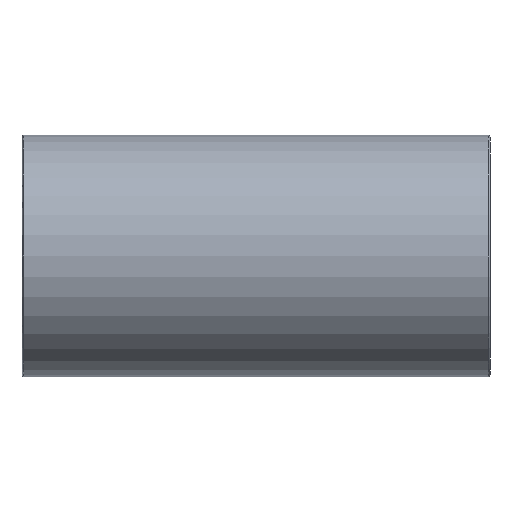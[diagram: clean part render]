
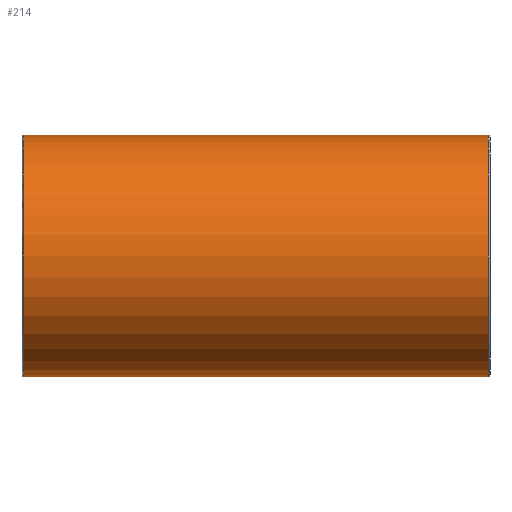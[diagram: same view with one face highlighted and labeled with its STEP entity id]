
A CAD part, front view. The second image highlights one B-rep face of the part: STEP entity #214.
In plain terms, the highlighted cylindrical face has radius 30.5 mm (diameter 61 mm), a full revolution.
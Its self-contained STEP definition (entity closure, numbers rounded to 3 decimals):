
#27=B_SPLINE_CURVE_WITH_KNOTS('',3,(#355,#356,#357,#358,#359,#360,#361,
#362,#363,#364,#365,#366,#367,#368,#369,#370,#371,#372,#373,#374,#375,#376,
#377,#378,#379,#380,#381,#382,#383,#384,#385,#386,#387,#388,#389,#390,#391,
#392,#393,#394,#395,#396,#397,#398,#399,#400,#401,#402,#403,#404,#405,#406,
#407,#408,#409,#410,#411,#412,#413,#414,#415,#416,#417,#418,#419,#420),
 .UNSPECIFIED.,.T.,.F.,(4,2,2,2,2,2,2,2,2,2,2,2,2,2,2,2,2,2,2,2,2,2,2,2,
2,2,2,2,2,2,2,2,4),(0.,0.517,1.034,1.551,
2.069,2.567,3.065,3.564,4.062,
4.56,5.059,5.557,6.055,6.572,
7.089,7.607,8.124,8.641,9.158,
9.675,10.192,10.691,11.189,11.687,
12.186,12.684,13.182,13.681,14.179,
14.696,15.213,15.73,16.248),
 .UNSPECIFIED.);
#29=FACE_BOUND('',#70,.T.);
#30=FACE_BOUND('',#71,.T.);
#50=FACE_OUTER_BOUND('',#69,.T.);
#69=EDGE_LOOP('',(#167));
#70=EDGE_LOOP('',(#168));
#71=EDGE_LOOP('',(#169));
#109=CIRCLE('',#236,30.5);
#110=CIRCLE('',#237,30.5);
#127=VERTEX_POINT('',#350);
#128=VERTEX_POINT('',#352);
#129=VERTEX_POINT('',#354);
#147=EDGE_CURVE('',#127,#127,#109,.T.);
#148=EDGE_CURVE('',#128,#128,#110,.T.);
#149=EDGE_CURVE('',#129,#129,#27,.T.);
#167=ORIENTED_EDGE('',*,*,#147,.F.);
#168=ORIENTED_EDGE('',*,*,#148,.F.);
#169=ORIENTED_EDGE('',*,*,#149,.F.);
#207=CYLINDRICAL_SURFACE('',#235,30.5);
#214=ADVANCED_FACE('',(#50,#29,#30),#207,.T.);
#235=AXIS2_PLACEMENT_3D('',#349,#274,#275);
#236=AXIS2_PLACEMENT_3D('',#351,#276,#277);
#237=AXIS2_PLACEMENT_3D('',#353,#278,#279);
#274=DIRECTION('center_axis',(1.,0.,0.));
#275=DIRECTION('ref_axis',(0.,1.,0.));
#276=DIRECTION('center_axis',(-1.,0.,0.));
#277=DIRECTION('ref_axis',(0.,-1.,0.));
#278=DIRECTION('center_axis',(1.,0.,0.));
#279=DIRECTION('ref_axis',(0.,-1.,0.));
#349=CARTESIAN_POINT('Origin',(0.,0.,
0.));
#350=CARTESIAN_POINT('',(-58.5,30.5,0.));
#351=CARTESIAN_POINT('Origin',(-58.5,0.,0.));
#352=CARTESIAN_POINT('',(58.5,30.5,0.));
#353=CARTESIAN_POINT('Origin',(58.5,0.,0.));
#354=CARTESIAN_POINT('',(0.,17.471,25.));
#355=CARTESIAN_POINT('Ctrl Pts',(0.,17.471,
25.));
#356=CARTESIAN_POINT('Ctrl Pts',(1.724,17.471,25.));
#357=CARTESIAN_POINT('Ctrl Pts',(3.422,17.734,24.821));
#358=CARTESIAN_POINT('Ctrl Pts',(6.703,18.647,24.143));
#359=CARTESIAN_POINT('Ctrl Pts',(8.287,19.292,23.643));
#360=CARTESIAN_POINT('Ctrl Pts',(11.296,20.763,22.362));
#361=CARTESIAN_POINT('Ctrl Pts',(12.723,21.588,21.58));
#362=CARTESIAN_POINT('Ctrl Pts',(15.369,23.247,19.782));
#363=CARTESIAN_POINT('Ctrl Pts',(16.589,24.08,18.767));
#364=CARTESIAN_POINT('Ctrl Pts',(18.727,25.601,16.628));
#365=CARTESIAN_POINT('Ctrl Pts',(19.733,26.349,15.433));
#366=CARTESIAN_POINT('Ctrl Pts',(21.538,27.727,12.793));
#367=CARTESIAN_POINT('Ctrl Pts',(22.338,28.356,11.348));
#368=CARTESIAN_POINT('Ctrl Pts',(23.646,29.397,8.286));
#369=CARTESIAN_POINT('Ctrl Pts',(24.154,29.81,6.665));
#370=CARTESIAN_POINT('Ctrl Pts',(24.832,30.362,3.352));
#371=CARTESIAN_POINT('Ctrl Pts',(25.,30.5,1.661));
#372=CARTESIAN_POINT('Ctrl Pts',(25.,30.5,-1.661));
#373=CARTESIAN_POINT('Ctrl Pts',(24.832,30.362,-3.352));
#374=CARTESIAN_POINT('Ctrl Pts',(24.154,29.81,-6.665));
#375=CARTESIAN_POINT('Ctrl Pts',(23.646,29.397,-8.286));
#376=CARTESIAN_POINT('Ctrl Pts',(22.338,28.356,-11.348));
#377=CARTESIAN_POINT('Ctrl Pts',(21.538,27.727,-12.793));
#378=CARTESIAN_POINT('Ctrl Pts',(19.733,26.349,-15.433));
#379=CARTESIAN_POINT('Ctrl Pts',(18.727,25.601,-16.628));
#380=CARTESIAN_POINT('Ctrl Pts',(16.589,24.08,-18.767));
#381=CARTESIAN_POINT('Ctrl Pts',(15.369,23.247,-19.782));
#382=CARTESIAN_POINT('Ctrl Pts',(12.723,21.588,-21.58));
#383=CARTESIAN_POINT('Ctrl Pts',(11.296,20.763,-22.362));
#384=CARTESIAN_POINT('Ctrl Pts',(8.287,19.292,-23.643));
#385=CARTESIAN_POINT('Ctrl Pts',(6.703,18.647,-24.143));
#386=CARTESIAN_POINT('Ctrl Pts',(3.422,17.734,-24.821));
#387=CARTESIAN_POINT('Ctrl Pts',(1.724,17.471,-25.));
#388=CARTESIAN_POINT('Ctrl Pts',(-1.724,17.471,-25.));
#389=CARTESIAN_POINT('Ctrl Pts',(-3.422,17.734,-24.821));
#390=CARTESIAN_POINT('Ctrl Pts',(-6.703,18.647,-24.143));
#391=CARTESIAN_POINT('Ctrl Pts',(-8.287,19.292,-23.643));
#392=CARTESIAN_POINT('Ctrl Pts',(-11.296,20.763,-22.362));
#393=CARTESIAN_POINT('Ctrl Pts',(-12.723,21.588,-21.58));
#394=CARTESIAN_POINT('Ctrl Pts',(-15.369,23.247,-19.782));
#395=CARTESIAN_POINT('Ctrl Pts',(-16.589,24.08,-18.767));
#396=CARTESIAN_POINT('Ctrl Pts',(-18.727,25.601,-16.628));
#397=CARTESIAN_POINT('Ctrl Pts',(-19.733,26.349,-15.433));
#398=CARTESIAN_POINT('Ctrl Pts',(-21.538,27.727,-12.793));
#399=CARTESIAN_POINT('Ctrl Pts',(-22.338,28.356,-11.348));
#400=CARTESIAN_POINT('Ctrl Pts',(-23.646,29.397,-8.286));
#401=CARTESIAN_POINT('Ctrl Pts',(-24.154,29.81,-6.665));
#402=CARTESIAN_POINT('Ctrl Pts',(-24.832,30.362,-3.352));
#403=CARTESIAN_POINT('Ctrl Pts',(-25.,30.5,-1.661));
#404=CARTESIAN_POINT('Ctrl Pts',(-25.,30.5,1.661));
#405=CARTESIAN_POINT('Ctrl Pts',(-24.832,30.362,3.352));
#406=CARTESIAN_POINT('Ctrl Pts',(-24.154,29.81,6.665));
#407=CARTESIAN_POINT('Ctrl Pts',(-23.646,29.397,8.286));
#408=CARTESIAN_POINT('Ctrl Pts',(-22.338,28.356,11.348));
#409=CARTESIAN_POINT('Ctrl Pts',(-21.538,27.727,12.793));
#410=CARTESIAN_POINT('Ctrl Pts',(-19.733,26.349,15.433));
#411=CARTESIAN_POINT('Ctrl Pts',(-18.727,25.601,16.628));
#412=CARTESIAN_POINT('Ctrl Pts',(-16.589,24.08,18.767));
#413=CARTESIAN_POINT('Ctrl Pts',(-15.369,23.247,19.782));
#414=CARTESIAN_POINT('Ctrl Pts',(-12.723,21.588,21.58));
#415=CARTESIAN_POINT('Ctrl Pts',(-11.296,20.763,22.362));
#416=CARTESIAN_POINT('Ctrl Pts',(-8.287,19.292,23.643));
#417=CARTESIAN_POINT('Ctrl Pts',(-6.703,18.647,24.143));
#418=CARTESIAN_POINT('Ctrl Pts',(-3.422,17.734,24.821));
#419=CARTESIAN_POINT('Ctrl Pts',(-1.724,17.471,25.));
#420=CARTESIAN_POINT('Ctrl Pts',(0.,17.471,
25.));
